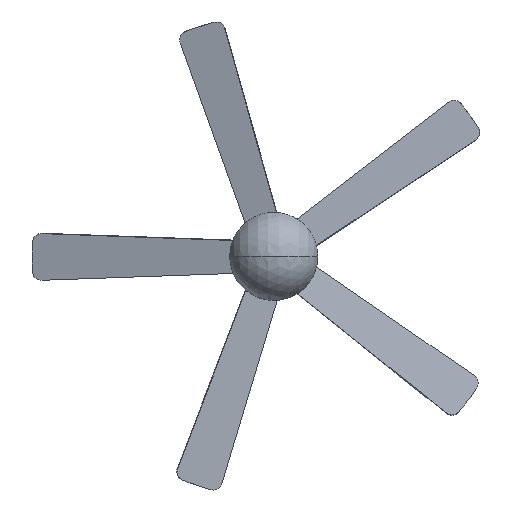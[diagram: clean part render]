
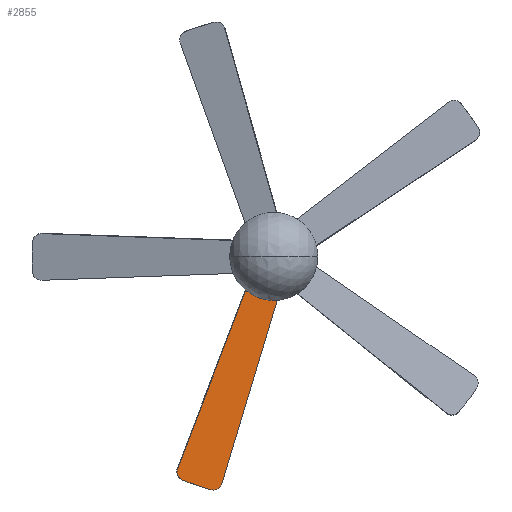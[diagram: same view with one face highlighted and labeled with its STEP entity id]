
A CAD part, top view. The second image highlights one B-rep face of the part: STEP entity #2855.
In plain terms, the highlighted planar face has unit normal (0.197, -0.067, 0.978).
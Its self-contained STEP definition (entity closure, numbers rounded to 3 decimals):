
#220=CIRCLE('',#3054,5.);
#222=CIRCLE('',#3057,100.624);
#224=CIRCLE('',#3060,5.);
#226=CIRCLE('',#3064,25.);
#228=CIRCLE('',#3067,886.568);
#230=CIRCLE('',#3070,25.);
#422=FACE_OUTER_BOUND('',#605,.T.);
#605=EDGE_LOOP('',(#1962,#1963,#1964,#1965,#1966,#1967,#1968,#1969));
#797=LINE('',#4188,#984);
#804=LINE('',#4214,#991);
#984=VECTOR('',#3396,304.8);
#991=VECTOR('',#3423,304.8);
#1175=VERTEX_POINT('',#4186);
#1176=VERTEX_POINT('',#4187);
#1179=VERTEX_POINT('',#4195);
#1181=VERTEX_POINT('',#4201);
#1183=VERTEX_POINT('',#4207);
#1185=VERTEX_POINT('',#4213);
#1187=VERTEX_POINT('',#4219);
#1189=VERTEX_POINT('',#4225);
#1459=EDGE_CURVE('',#1175,#1176,#797,.T.);
#1463=EDGE_CURVE('',#1179,#1175,#220,.T.);
#1466=EDGE_CURVE('',#1181,#1179,#222,.T.);
#1469=EDGE_CURVE('',#1183,#1181,#224,.T.);
#1472=EDGE_CURVE('',#1185,#1183,#804,.T.);
#1475=EDGE_CURVE('',#1187,#1185,#226,.T.);
#1478=EDGE_CURVE('',#1189,#1187,#228,.T.);
#1481=EDGE_CURVE('',#1176,#1189,#230,.T.);
#1962=ORIENTED_EDGE('',*,*,#1481,.T.);
#1963=ORIENTED_EDGE('',*,*,#1478,.T.);
#1964=ORIENTED_EDGE('',*,*,#1475,.T.);
#1965=ORIENTED_EDGE('',*,*,#1472,.T.);
#1966=ORIENTED_EDGE('',*,*,#1469,.T.);
#1967=ORIENTED_EDGE('',*,*,#1466,.T.);
#1968=ORIENTED_EDGE('',*,*,#1463,.T.);
#1969=ORIENTED_EDGE('',*,*,#1459,.T.);
#2759=PLANE('',#3073);
#2855=ADVANCED_FACE('',(#422),#2759,.T.);
#3054=AXIS2_PLACEMENT_3D('',#4196,#3402,#3403);
#3057=AXIS2_PLACEMENT_3D('',#4202,#3409,#3410);
#3060=AXIS2_PLACEMENT_3D('',#4208,#3416,#3417);
#3064=AXIS2_PLACEMENT_3D('',#4220,#3428,#3429);
#3067=AXIS2_PLACEMENT_3D('',#4226,#3435,#3436);
#3070=AXIS2_PLACEMENT_3D('',#4231,#3442,#3443);
#3073=AXIS2_PLACEMENT_3D('',#4234,#3448,#3449);
#3396=DIRECTION('',(-0.356,-0.934,0.008));
#3402=DIRECTION('center_axis',(0.197,-0.067,0.978));
#3403=DIRECTION('ref_axis',(0.323,0.947,0.));
#3409=DIRECTION('center_axis',(-0.197,0.067,-0.978));
#3410=DIRECTION('ref_axis',(0.323,0.947,0.));
#3416=DIRECTION('center_axis',(0.197,-0.067,0.978));
#3417=DIRECTION('ref_axis',(0.323,0.947,0.));
#3423=DIRECTION('',(0.289,0.957,0.008));
#3428=DIRECTION('center_axis',(0.197,-0.067,0.978));
#3429=DIRECTION('ref_axis',(0.323,0.947,0.));
#3435=DIRECTION('center_axis',(0.197,-0.067,0.978));
#3436=DIRECTION('ref_axis',(0.323,0.947,0.));
#3442=DIRECTION('center_axis',(0.197,-0.067,0.978));
#3443=DIRECTION('ref_axis',(0.323,0.947,0.));
#3448=DIRECTION('center_axis',(0.197,-0.067,0.978));
#3449=DIRECTION('ref_axis',(-0.926,0.316,0.208));
#4186=CARTESIAN_POINT('',(-66.493,-65.863,260.263));
#4187=CARTESIAN_POINT('',(-261.851,-578.513,264.418));
#4188=CARTESIAN_POINT('',(-66.493,-65.863,260.263));
#4195=CARTESIAN_POINT('',(-58.68,-63.829,258.83));
#4196=CARTESIAN_POINT('Origin',(-61.926,-67.612,259.224));
#4201=CARTESIAN_POINT('',(11.886,-87.877,242.984));
#4202=CARTESIAN_POINT('Origin',(6.643,12.297,250.907));
#4207=CARTESIAN_POINT('',(16.831,-94.259,241.551));
#4208=CARTESIAN_POINT('Origin',(12.146,-92.855,242.59));
#4213=CARTESIAN_POINT('',(-141.518,-619.521,237.396));
#4214=CARTESIAN_POINT('',(-141.518,-619.521,237.396));
#4219=CARTESIAN_POINT('',(-171.924,-636.505,242.349));
#4220=CARTESIAN_POINT('Origin',(-164.943,-612.5,242.59));
#4225=CARTESIAN_POINT('',(-248.144,-610.53,259.465));
#4226=CARTESIAN_POINT('Origin',(75.638,214.754,250.907));
#4231=CARTESIAN_POINT('Origin',(-239.014,-587.258,259.224));
#4234=CARTESIAN_POINT('Origin',(-230.95,-563.594,259.224));
